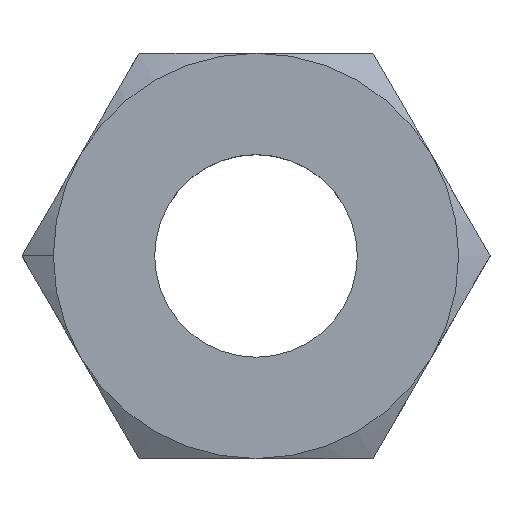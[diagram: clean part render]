
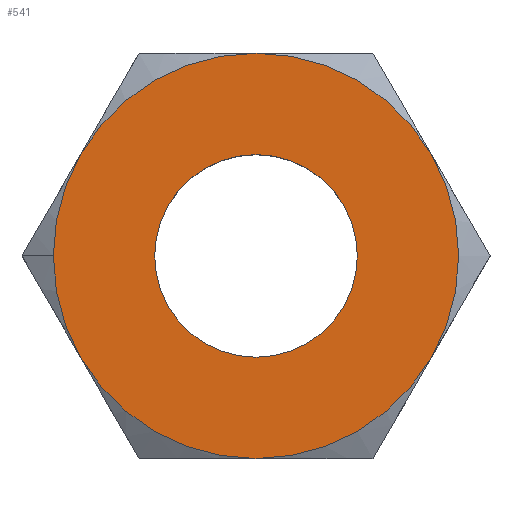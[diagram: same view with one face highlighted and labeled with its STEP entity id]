
A CAD part, top view. The second image highlights one B-rep face of the part: STEP entity #541.
In plain terms, the highlighted planar face has unit normal (0, 0, 1).
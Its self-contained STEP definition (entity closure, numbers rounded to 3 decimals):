
#25 = DIRECTION ( 'NONE',  ( -1., 0., 0. ) ) ;
#28 = DIRECTION ( 'NONE',  ( 1., 0., 0. ) ) ;
#29 = DIRECTION ( 'NONE',  ( 0., 0., 1. ) ) ;
#51 = PLANE ( 'NONE',  #73 ) ;
#53 = FACE_BOUND ( 'NONE', #559, .T. ) ;
#54 = FACE_OUTER_BOUND ( 'NONE', #542, .T. ) ;
#65 = CARTESIAN_POINT ( 'NONE',  ( 0., 8.5, 5. ) ) ;
#72 = CARTESIAN_POINT ( 'NONE',  ( 4.907, -8.5, 5. ) ) ;
#73 = AXIS2_PLACEMENT_3D ( 'NONE', #72, #29, #28 ) ;
#74 = AXIS2_PLACEMENT_3D ( 'NONE', #92, #82, #83 ) ;
#75 = DIRECTION ( 'NONE',  ( 1., 0., 0. ) ) ;
#76 = CARTESIAN_POINT ( 'NONE',  ( 0., 0., 5. ) ) ;
#77 = AXIS2_PLACEMENT_3D ( 'NONE', #91, #78, #75 ) ;
#78 = DIRECTION ( 'NONE',  ( 0., 0., -1. ) ) ;
#79 = DIRECTION ( 'NONE',  ( 0., 0., -1. ) ) ;
#80 = DIRECTION ( 'NONE',  ( 1., 0., 0. ) ) ;
#81 = CIRCLE ( 'NONE', #84, 8.5 ) ;
#82 = DIRECTION ( 'NONE',  ( 0., 0., -1. ) ) ;
#83 = DIRECTION ( 'NONE',  ( 1., 0., 0. ) ) ;
#84 = AXIS2_PLACEMENT_3D ( 'NONE', #89, #88, #25 ) ;
#85 = CIRCLE ( 'NONE', #74, 8.5 ) ;
#86 = CIRCLE ( 'NONE', #93, 8.5 ) ;
#87 = CIRCLE ( 'NONE', #77, 8.5 ) ;
#88 = DIRECTION ( 'NONE',  ( 0., 0., -1. ) ) ;
#89 = CARTESIAN_POINT ( 'NONE',  ( 0., 0., 5. ) ) ;
#91 = CARTESIAN_POINT ( 'NONE',  ( 0., 0., 5. ) ) ;
#92 = CARTESIAN_POINT ( 'NONE',  ( 0., 0., 5. ) ) ;
#93 = AXIS2_PLACEMENT_3D ( 'NONE', #76, #79, #80 ) ;
#139 = DIRECTION ( 'NONE',  ( 0., 0., -1. ) ) ;
#140 = CIRCLE ( 'NONE', #142, 8.5 ) ;
#142 = AXIS2_PLACEMENT_3D ( 'NONE', #144, #139, #143 ) ;
#143 = DIRECTION ( 'NONE',  ( 1., 0., 0. ) ) ;
#144 = CARTESIAN_POINT ( 'NONE',  ( 0., 0., 5. ) ) ;
#232 = CARTESIAN_POINT ( 'NONE',  ( -7.361, 4.25, 5. ) ) ;
#247 = VERTEX_POINT ( 'NONE', #346 ) ;
#249 = EDGE_CURVE ( 'NONE', #247, #250, #519, .T. ) ;
#250 = VERTEX_POINT ( 'NONE', #515 ) ;
#264 = VERTEX_POINT ( 'NONE', #495 ) ;
#276 = EDGE_CURVE ( 'NONE', #277, #278, #570, .T. ) ;
#277 = VERTEX_POINT ( 'NONE', #719 ) ;
#278 = VERTEX_POINT ( 'NONE', #718 ) ;
#345 = CARTESIAN_POINT ( 'NONE',  ( 0., 0., 5. ) ) ;
#346 = CARTESIAN_POINT ( 'NONE',  ( -4.25, 0., 5. ) ) ;
#366 = VERTEX_POINT ( 'NONE', #635 ) ;
#389 = VERTEX_POINT ( 'NONE', #722 ) ;
#428 = EDGE_CURVE ( 'NONE', #264, #277, #586, .T. ) ;
#429 = ORIENTED_EDGE ( 'NONE', *, *, #430, .F. ) ;
#430 = EDGE_CURVE ( 'NONE', #250, #247, #581, .T. ) ;
#431 = ORIENTED_EDGE ( 'NONE', *, *, #249, .F. ) ;
#455 = VERTEX_POINT ( 'NONE', #232 ) ;
#468 = AXIS2_PLACEMENT_3D ( 'NONE', #469, #721, #720 ) ;
#469 = CARTESIAN_POINT ( 'NONE',  ( 0., 0., 5. ) ) ;
#495 = CARTESIAN_POINT ( 'NONE',  ( 0., -8.5, 5. ) ) ;
#515 = CARTESIAN_POINT ( 'NONE',  ( 4.25, 0., 5. ) ) ;
#516 = DIRECTION ( 'NONE',  ( 1., 0., 0. ) ) ;
#517 = DIRECTION ( 'NONE',  ( 0., 0., 1. ) ) ;
#518 = AXIS2_PLACEMENT_3D ( 'NONE', #345, #517, #516 ) ;
#519 = CIRCLE ( 'NONE', #518, 4.25 ) ;
#537 = VERTEX_POINT ( 'NONE', #65 ) ;
#541 = ADVANCED_FACE ( 'NONE', ( #54, #53 ), #51, .T. ) ;
#542 = EDGE_LOOP ( 'NONE', ( #543, #545, #547, #549, #555, #557, #558 ) ) ;
#543 = ORIENTED_EDGE ( 'NONE', *, *, #544, .F. ) ;
#544 = EDGE_CURVE ( 'NONE', #366, #264, #85, .T. ) ;
#545 = ORIENTED_EDGE ( 'NONE', *, *, #546, .F. ) ;
#546 = EDGE_CURVE ( 'NONE', #389, #366, #86, .T. ) ;
#547 = ORIENTED_EDGE ( 'NONE', *, *, #548, .F. ) ;
#548 = EDGE_CURVE ( 'NONE', #537, #389, #87, .T. ) ;
#549 = ORIENTED_EDGE ( 'NONE', *, *, #550, .F. ) ;
#550 = EDGE_CURVE ( 'NONE', #455, #537, #81, .T. ) ;
#555 = ORIENTED_EDGE ( 'NONE', *, *, #556, .F. ) ;
#556 = EDGE_CURVE ( 'NONE', #278, #455, #140, .T. ) ;
#557 = ORIENTED_EDGE ( 'NONE', *, *, #276, .F. ) ;
#558 = ORIENTED_EDGE ( 'NONE', *, *, #428, .F. ) ;
#559 = EDGE_LOOP ( 'NONE', ( #429, #431 ) ) ;
#570 = CIRCLE ( 'NONE', #468, 8.5 ) ;
#577 = DIRECTION ( 'NONE',  ( 1., 0., 0. ) ) ;
#578 = DIRECTION ( 'NONE',  ( 0., 0., 1. ) ) ;
#579 = CARTESIAN_POINT ( 'NONE',  ( 0., 0., 5. ) ) ;
#580 = AXIS2_PLACEMENT_3D ( 'NONE', #579, #578, #577 ) ;
#581 = CIRCLE ( 'NONE', #580, 4.25 ) ;
#582 = DIRECTION ( 'NONE',  ( 1., 0., 0. ) ) ;
#583 = DIRECTION ( 'NONE',  ( 0., 0., -1. ) ) ;
#584 = CARTESIAN_POINT ( 'NONE',  ( 0., 0., 5. ) ) ;
#585 = AXIS2_PLACEMENT_3D ( 'NONE', #584, #583, #582 ) ;
#586 = CIRCLE ( 'NONE', #585, 8.5 ) ;
#635 = CARTESIAN_POINT ( 'NONE',  ( 7.361, -4.25, 5. ) ) ;
#718 = CARTESIAN_POINT ( 'NONE',  ( -8.5, 0., 5. ) ) ;
#719 = CARTESIAN_POINT ( 'NONE',  ( -7.361, -4.25, 5. ) ) ;
#720 = DIRECTION ( 'NONE',  ( 1., 0., 0. ) ) ;
#721 = DIRECTION ( 'NONE',  ( 0., 0., -1. ) ) ;
#722 = CARTESIAN_POINT ( 'NONE',  ( 7.361, 4.25, 5. ) ) ;
